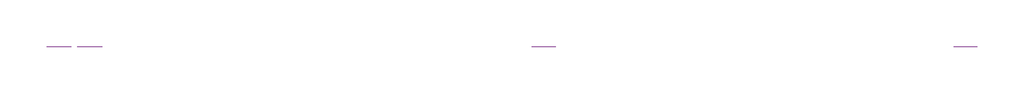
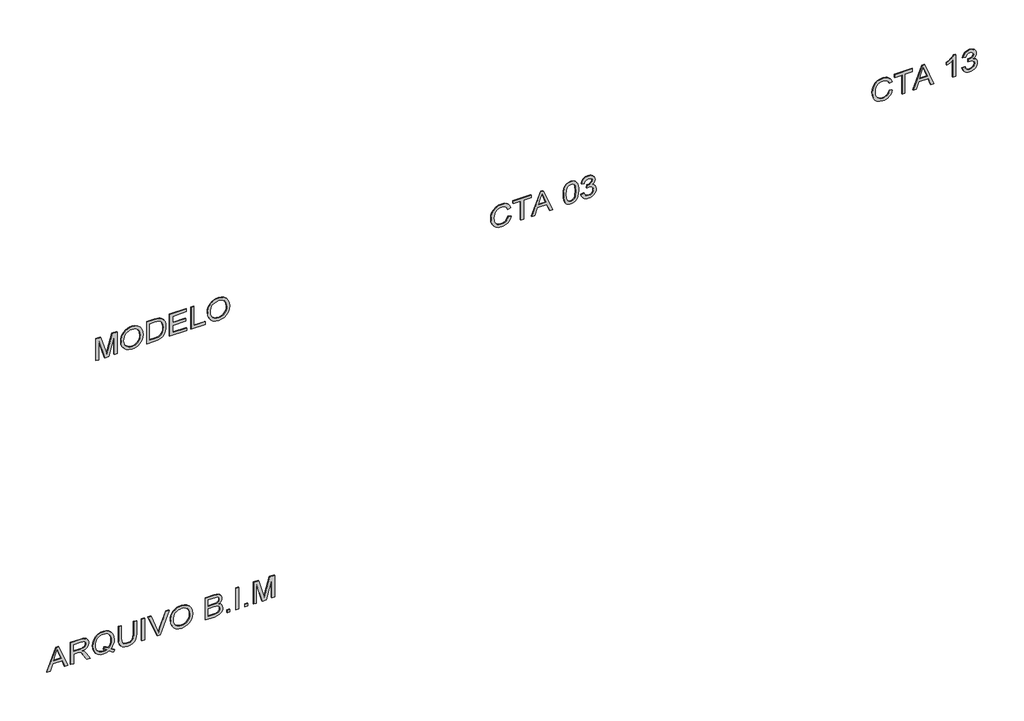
# One storey, incomplete: 4 proxies.
"""IFC4 building model written with IfcOpenShell, lengths in millimetres."""

from ifc_helpers import new_model, si_unit, frame, origin, place, context, project, spatial, polyline, outline, extrude, element, save

model = new_model("IFC4")

# Units and contexts
model_context = context("Model", 3, world=origin())
ifc_project = project(units=[si_unit("LENGTHUNIT", "METRE", prefix="MILLI")], contexts=[model_context])

# Site, building, storey
site = spatial("IfcSite", under=ifc_project)
building = spatial("IfcBuilding", under=site)
storey = spatial("IfcBuildingStorey", under=building, Name="04 - Marelli - Planta Baixa - Cabine Acessível", Elevation=-36000.0)

# Proxies
placement = place(None, origin())
element("IfcBuildingElementProxy", 1, Name="300mm Arial", ObjectType="300mm Arial", at=placement, inside=storey, context=model_context, shape_type="SweptSolid", body=[
    extrude(outline(polyline([(-34400.0, -7636.3146377), (-34400.0, -7596.5098058), (-34305.8222092, -7562.076051), (-34305.8222092, -7437.9526659), (-34400.0, -7403.4453347), (-34400.0, -7363.6405028), (-34098.6310696, -7483.9379153), (-34098.6310696, -7516.0172252), (-34400.0, -7636.3146377)]), holes=[polyline([(-34268.1510929, -7548.243688), (-34187.584936, -7518.739552), (-34136.3021859, -7499.9775703), (-34194.0596591, -7478.8611437), (-34268.1510929, -7451.7114525), (-34268.1510929, -7548.243688)])]), frame((0.0, 8778.3159498, 0.0), z_axis=(0.0, 1.0, 0.0), x_axis=(0.0, 0.0, 1.0)), (0.0, 0.0, 1.0), 10.0),
    extrude(outline(polyline([(-34400.0, -7323.3942126), (-34400.0, -7285.7230963), (-34268.1510929, -7285.7230963), (-34268.1510929, -7240.2528817), (-34269.4754681, -7218.4006911), (-34276.649167, -7200.484838), (-34296.183701, -7180.582422), (-34337.5336372, -7152.2555084), (-34400.0, -7113.0392877), (-34400.0, -7069.2613303), (-34318.3301971, -7119.5140108), (-34279.5554348, -7150.0482164), (-34263.4422034, -7171.4589486), (-34253.4542072, -7134.3488523), (-34245.4389783, -7119.9669655), (-34235.4095954, -7108.3671864), (-34210.7982899, -7093.0540983), (-34181.1102129, -7087.9497357), (-34157.2438684, -7091.0307474), (-34135.5296337, -7100.2737825), (-34118.0184507, -7114.6763626), (-34106.7612616, -7133.2360093), (-34100.6636176, -7158.629064), (-34098.6310696, -7193.5318683), (-34098.6310696, -7323.3942126), (-34400.0, -7323.3942126)]), holes=[polyline([(-34230.4799766, -7285.7230963), (-34136.3021859, -7285.7230963), (-34136.3021859, -7191.9131875), (-34139.5579415, -7162.1055488), (-34149.3252085, -7141.5501423), (-34164.1324588, -7129.6031746), (-34182.5081645, -7125.620852), (-34195.8162956, -7127.7085823), (-34208.0759631, -7133.9717732), (-34218.2111121, -7144.254075), (-34225.1456877, -7158.3991377), (-34229.1464044, -7177.1887106), (-34230.4799766, -7201.404543), (-34230.4799766, -7285.7230963)])]), frame((0.0, 8778.3159498, 0.0), z_axis=(0.0, 1.0, 0.0), x_axis=(0.0, 0.0, 1.0)), (0.0, 0.0, 1.0), 10.0),
    extrude(outline(polyline([(-34363.8739881, -6795.6307023), (-34340.3479345, -6777.1814202), (-34313.0326963, -6764.0664271), (-34281.9650618, -6756.2305406), (-34247.1818192, -6753.6185784), (-34205.3536364, -6757.9227978), (-34168.0136138, -6770.8354558), (-34136.8172207, -6791.9610794), (-34113.4199258, -6820.9041954), (-34098.7966164, -6855.7702114), (-34093.92218, -6894.6645354), (-34098.6862519, -6933.2553567), (-34112.9784674, -6967.9466288), (-34136.3849593, -6996.93573), (-34168.4918604, -7018.4200386), (-34206.944726, -7031.7189727), (-34249.3891112, -7036.1519507), (-34291.7967082, -7031.7097756), (-34329.6977507, -7018.3832504), (-34361.3539964, -6996.8161684), (-34385.0272028, -6967.6523232), (-34399.7884679, -6932.8322924), (-34404.7088895, -6894.2966534), (-34400.4414584, -6855.9449554), (-34387.639165, -6821.0881364), (-34408.47968, -6790.1308665), (-34422.8822601, -6759.063232), (-34395.2911105, -6748.9096889), (-34382.4704229, -6771.2953083), (-34363.8739881, -6795.6307023)]), holes=[polyline([(-34313.7684603, -6883.9223811), (-34342.6104088, -6893.6344658), (-34349.287467, -6873.2721974), (-34359.3122513, -6853.9767867), (-34365.1063928, -6873.6032912), (-34367.0377732, -6894.5173826), (-34365.1362832, -6916.2385151), (-34359.431813, -6935.9316982), (-34349.9243627, -6953.5969318), (-34336.6139322, -6969.2342158), (-34319.748842, -6982.0296115), (-34299.5774124, -6991.1691798), (-34276.0996433, -6996.6529208), (-34249.3155348, -6998.4808344), (-34221.8140564, -6996.6322274), (-34197.9500112, -6991.0864063), (-34177.7233993, -6981.8433712), (-34161.1342205, -6968.903122), (-34148.2100662, -6953.1577726), (-34138.9785274, -6935.4994369), (-34133.4396041, -6915.9281147), (-34131.5932963, -6894.4438062), (-34135.2445251, -6865.9605427), (-34146.1982115, -6840.4019411), (-34163.7645768, -6819.2027411), (-34187.2538422, -6803.7976826), (-34215.9394408, -6794.4166917), (-34249.0948056, -6791.2896947), (-34278.2678478, -6793.5015852), (-34303.5413409, -6800.1372567), (-34324.9152848, -6811.1967092), (-34342.3896796, -6826.6799427), (-34325.7430193, -6852.2477413), (-34313.7684603, -6883.9223811)])]), frame((0.0, 8778.3159498, 0.0), z_axis=(0.0, 1.0, 0.0), x_axis=(0.0, 0.0, 1.0)), (0.0, 0.0, 1.0), 10.0),
    extrude(outline(polyline([(-34098.6310696, -6499.3385434), (-34271.1677253, -6499.3385434), (-34318.3301971, -6504.1026152), (-34335.0688279, -6510.057705), (-34347.2457219, -6518.3948307), (-34355.9047444, -6529.5278596), (-34362.0897604, -6543.8706589), (-34367.0377732, -6582.1855687), (-34364.5361757, -6606.3554158), (-34357.031383, -6626.4785609), (-34344.9188683, -6641.9112106), (-34328.5941047, -6652.0095714), (-34305.0220659, -6657.5829836), (-34271.1677253, -6659.4407877), (-34098.6310696, -6659.4407877), (-34098.6310696, -6697.111904), (-34272.4921005, -6697.111904), (-34315.2675795, -6694.2516215), (-34347.9446977, -6685.6707739), (-34372.3076828, -6670.4036711), (-34390.1407625, -6647.4846228), (-34401.0668578, -6616.904432), (-34404.7088895, -6578.6539015), (-34400.5242318, -6539.5480454), (-34387.9702588, -6508.7563224), (-34368.7484245, -6486.2235502), (-34344.5601833, -6471.8945465), (-34313.2074403, -6464.2242069), (-34272.4921005, -6461.6674271), (-34098.6310696, -6461.6674271), (-34098.6310696, -6499.3385434)])), frame((0.0, 8778.3159498, 0.0), z_axis=(0.0, 1.0, 0.0), x_axis=(0.0, 0.0, 1.0)), (0.0, 0.0, 1.0), 10.0),
    extrude(outline(polyline([(-6353.3629677, 8778.3159498), (-6391.034084, 8778.3159498), (-6391.034084, 8788.3159498), (-6353.3629677, 8788.3159498), (-6353.3629677, 8778.3159498)])), frame((0.0, 0.0, -34400.0), z_axis=(0.0, 0.0, 1.0), x_axis=(1.0, 0.0, 0.0)), (0.0, 0.0, 1.0), 301.3689304),
    extrude(outline(polyline([(-34400.0, -6188.9932922), (-34400.0, -6150.0713771), (-34098.6310696, -6035.2186183), (-34098.6310696, -6075.5384849), (-34315.7550231, -6156.0310655), (-34364.6833285, -6172.0707205), (-34315.7550231, -6188.3311046), (-34098.6310696, -6268.602956), (-34098.6310696, -6308.9228227), (-34400.0, -6188.9932922)])), frame((0.0, 8778.3159498, 0.0), z_axis=(0.0, 1.0, 0.0), x_axis=(0.0, 0.0, 1.0)), (0.0, 0.0, 1.0), 10.0),
    extrude(outline(polyline([(-34253.2886603, -6014.3229209), (-34291.8334964, -6010.0187016), (-34328.2997991, -5997.1060436), (-34359.992833, -5975.8424642), (-34384.2178624, -5946.485481), (-34399.5861328, -5910.8377157), (-34404.7088895, -5870.70179), (-34400.0735764, -5832.892718), (-34386.167637, -5797.7507904), (-34363.2485887, -5767.7868019), (-34331.5739489, -5745.5115471), (-34293.1118863, -5731.6883811), (-34249.8305696, -5727.0806591), (-34207.1194699, -5731.4584548), (-34169.1908362, -5744.5918421), (-34137.5713787, -5766.0761506), (-34113.7878078, -5795.5067102), (-34098.8885869, -5830.9521404), (-34093.92218, -5870.4810608), (-34096.5663319, -5900.7715446), (-34104.4987874, -5928.1465636), (-34117.7195466, -5952.6061177), (-34136.2286095, -5974.1502071), (-34159.4097737, -5991.7257694), (-34186.6468369, -6004.2797425), (-34217.9397991, -6011.8121263), (-34253.2886603, -6014.3229209)]), holes=[polyline([(-34253.6565423, -5976.6518046), (-34223.1200375, -5974.6882345), (-34197.2878236, -5968.797524), (-34176.1599008, -5958.9796733), (-34159.736269, -5945.2346822), (-34147.4237184, -5928.7673644), (-34138.6290395, -5910.7825334), (-34133.3522321, -5891.2801891), (-34131.5932963, -5870.2603316), (-34135.2445251, -5841.0964864), (-34146.1982115, -5814.9676677), (-34163.7921679, -5793.3086153), (-34187.3642068, -5777.5540688), (-34216.1877611, -5767.9523488), (-34249.536264, -5764.7517754), (-34276.0743514, -5766.6210758), (-34299.4026684, -5772.228977), (-34319.521215, -5781.5754789), (-34336.4299912, -5794.6605816), (-34349.8208959, -5810.642755), (-34359.3858277, -5828.6804691), (-34365.1247869, -5848.7737238), (-34367.0377732, -5870.9225192), (-34365.143181, -5892.6988341), (-34359.4594041, -5912.557564), (-34349.9864428, -5930.4987091), (-34336.7242968, -5946.5222692), (-34320.1650085, -5959.703941), (-34300.80062, -5969.1194208), (-34278.6311313, -5974.7687087), (-34253.6565423, -5976.6518046)])]), frame((0.0, 8778.3159498, 0.0), z_axis=(0.0, 1.0, 0.0), x_axis=(0.0, 0.0, 1.0)), (0.0, 0.0, 1.0), 10.0),
    extrude(outline(polyline([(-34400.0, -5557.5606357), (-34400.0, -5443.4436408), (-34394.8128639, -5395.1407348), (-34388.3933231, -5377.10532), (-34379.5089729, -5362.3624491), (-34367.2401083, -5350.3235108), (-34350.6670244, -5340.399894), (-34331.1784758, -5333.7504269), (-34310.1632168, -5331.5339379), (-34284.944906, -5334.7804965), (-34263.2950506, -5344.5201723), (-34246.3356906, -5360.2931129), (-34235.1888662, -5381.6394656), (-34223.4442335, -5363.7695977), (-34208.5174215, -5351.0684718), (-34191.456894, -5343.4809057), (-34173.3111146, -5340.951717), (-34153.5926396, -5343.9591523), (-34134.7570815, -5352.9814582), (-34118.7450176, -5367.3104619), (-34107.4970256, -5386.2379906), (-34100.8475586, -5410.9320695), (-34098.6310696, -5442.560724), (-34098.6310696, -5557.5606357), (-34400.0, -5557.5606357)]), holes=[polyline([(-34221.0621975, -5519.8895194), (-34136.3021859, -5519.8895194), (-34136.3021859, -5456.3195106), (-34140.2385232, -5407.9062401), (-34145.8395266, -5395.4166463), (-34154.769862, -5386.2012024), (-34166.2109921, -5380.5174255), (-34179.3443793, -5378.6228333), (-34192.8732397, -5380.6553813), (-34203.8821084, -5386.7530254), (-34212.2422267, -5396.8605832), (-34217.824836, -5410.9228724), (-34221.0621975, -5451.0955863), (-34221.0621975, -5519.8895194)]), polyline([(-34362.3288837, -5519.8895194), (-34258.7333139, -5519.8895194), (-34258.7333139, -5446.3131204), (-34259.9933097, -5419.4853259), (-34263.7732972, -5399.776048), (-34270.6618875, -5385.8609115), (-34281.247692, -5376.4155413), (-34294.7857494, -5371.007676), (-34310.5310988, -5369.2050542), (-34324.0875503, -5370.7409615), (-34335.9149564, -5375.3486835), (-34352.6535872, -5391.0204565), (-34360.8573557, -5414.6752688), (-34362.3288837, -5442.6343004), (-34362.3288837, -5519.8895194)])]), frame((0.0, 8778.3159498, 0.0), z_axis=(0.0, 1.0, 0.0), x_axis=(0.0, 0.0, 1.0)), (0.0, 0.0, 1.0), 10.0),
    extrude(outline(polyline([(-5237.3561471, 8778.3159498), (-5275.0272634, 8778.3159498), (-5275.0272634, 8788.3159498), (-5237.3561471, 8788.3159498), (-5237.3561471, 8778.3159498)])), frame((0.0, 0.0, -34400.0), z_axis=(0.0, 0.0, 1.0), x_axis=(1.0, 0.0, 0.0)), (0.0, 0.0, 1.0), 37.6711163),
    extrude(outline(polyline([(-5119.6339087, 8778.3159498), (-5157.305025, 8778.3159498), (-5157.305025, 8788.3159498), (-5119.6339087, 8788.3159498), (-5119.6339087, 8778.3159498)])), frame((0.0, 0.0, -34400.0), z_axis=(0.0, 0.0, 1.0), x_axis=(1.0, 0.0, 0.0)), (0.0, 0.0, 1.0), 301.3689304),
    extrude(outline(polyline([(-5001.9116702, 8778.3159498), (-5039.5827865, 8778.3159498), (-5039.5827865, 8788.3159498), (-5001.9116702, 8788.3159498), (-5001.9116702, 8778.3159498)])), frame((0.0, 0.0, -34400.0), z_axis=(0.0, 0.0, 1.0), x_axis=(1.0, 0.0, 0.0)), (0.0, 0.0, 1.0), 37.6711163),
    extrude(outline(polyline([(-34400.0, -4926.5694376), (-34400.0, -4888.8983213), (-34136.3021859, -4888.8983213), (-34400.0, -4813.1882067), (-34400.0, -4762.1261857), (-34136.3021859, -4686.4160711), (-34400.0, -4686.4160711), (-34400.0, -4648.7449548), (-34098.6310696, -4648.7449548), (-34098.6310696, -4713.5657624), (-34307.3673136, -4774.1927152), (-34355.4127022, -4787.6571962), (-34311.0461336, -4800.0916076), (-34098.6310696, -4861.74863), (-34098.6310696, -4926.5694376), (-34400.0, -4926.5694376)])), frame((0.0, 8778.3159498, 0.0), z_axis=(0.0, 1.0, 0.0), x_axis=(0.0, 0.0, 1.0)), (0.0, 0.0, 1.0), 10.0),
])
element("IfcBuildingElementProxy", 2, Name="300mm Arial", ObjectType="300mm Arial", at=placement, inside=storey, context=model_context, shape_type="SweptSolid", body=[
    extrude(outline(polyline([(-30300.0, -6993.7719449), (-30300.0, -6956.1008286), (-30036.3021859, -6956.1008286), (-30300.0, -6880.390714), (-30300.0, -6829.328693), (-30036.3021859, -6753.6185784), (-30300.0, -6753.6185784), (-30300.0, -6715.9474621), (-29998.6310696, -6715.9474621), (-29998.6310696, -6780.7682697), (-30207.3673136, -6841.3952225), (-30255.4127022, -6854.8597035), (-30211.0461336, -6867.2941149), (-29998.6310696, -6928.9511373), (-29998.6310696, -6993.7719449), (-30300.0, -6993.7719449)])), frame((0.0, 8778.3159498, 0.0), z_axis=(0.0, 1.0, 0.0), x_axis=(0.0, 0.0, 1.0)), (0.0, 0.0, 1.0), 10.0),
    extrude(outline(polyline([(-30153.2886603, -6664.1496772), (-30191.8334964, -6659.8454579), (-30228.2997991, -6646.9327998), (-30259.992833, -6625.6692205), (-30284.2178624, -6596.3122373), (-30299.5861328, -6560.664472), (-30304.7088895, -6520.5285463), (-30300.0735764, -6482.7194742), (-30286.167637, -6447.5775466), (-30263.2485887, -6417.6135581), (-30231.5739489, -6395.3383033), (-30193.1118863, -6381.5151374), (-30149.8305696, -6376.9074154), (-30107.1194699, -6381.2852111), (-30069.1908362, -6394.4185983), (-30037.5713787, -6415.9029069), (-30013.7878078, -6445.3334665), (-29998.8885869, -6480.7788967), (-29993.92218, -6520.3078171), (-29996.5663319, -6550.5983009), (-30004.4987874, -6577.9733198), (-30017.7195466, -6602.432874), (-30036.2286095, -6623.9769633), (-30059.4097737, -6641.5525257), (-30086.6468369, -6654.1064987), (-30117.9397991, -6661.6388826), (-30153.2886603, -6664.1496772)]), holes=[polyline([(-30153.6565423, -6626.4785609), (-30123.1200375, -6624.5149908), (-30097.2878236, -6618.6242803), (-30076.1599008, -6608.8064296), (-30059.736269, -6595.0614385), (-30047.4237184, -6578.5941207), (-30038.6290395, -6560.6092897), (-30033.3522321, -6541.1069454), (-30031.5932963, -6520.0870879), (-30035.2445251, -6490.9232427), (-30046.1982115, -6464.794424), (-30063.7921679, -6443.1353716), (-30087.3642068, -6427.3808251), (-30116.1877611, -6417.779105), (-30149.536264, -6414.5785317), (-30176.0743514, -6416.4478321), (-30199.4026684, -6422.0557332), (-30219.521215, -6431.4022352), (-30236.4299912, -6444.4873379), (-30249.8208959, -6460.4695113), (-30259.3858277, -6478.5072254), (-30265.1247869, -6498.6004801), (-30267.0377732, -6520.7492755), (-30265.143181, -6542.5255903), (-30259.4594041, -6562.3843203), (-30249.9864428, -6580.3254653), (-30236.7242968, -6596.3490255), (-30220.1650085, -6609.5306972), (-30200.80062, -6618.9461771), (-30178.6311313, -6624.5954649), (-30153.6565423, -6626.4785609)])]), frame((0.0, 8778.3159498, 0.0), z_axis=(0.0, 1.0, 0.0), x_axis=(0.0, 0.0, 1.0)), (0.0, 0.0, 1.0), 10.0),
    extrude(outline(polyline([(-30300.0, -6325.1096305), (-30300.0, -6216.1429835), (-30294.8496521, -6167.6929247), (-30288.4944906, -6148.1491937), (-30279.7297021, -6131.6772774), (-30267.911493, -6117.3298796), (-30252.3960698, -6104.1597042), (-30232.7419742, -6092.7185741), (-30208.5077478, -6083.5583124), (-30180.0428784, -6077.5434418), (-30147.696854, -6075.5384849), (-30109.6210675, -6078.499935), (-30076.0334413, -6087.3842852), (-30047.4857985, -6102.2283237), (-30024.529962, -6123.0688387), (-30011.3413925, -6143.3391366), (-30002.9720771, -6167.3618309), (-29998.6310696, -6221.1461786), (-29998.6310696, -6325.1096305), (-30300.0, -6325.1096305)]), holes=[polyline([(-30262.3288837, -6287.4385141), (-30036.3021859, -6287.4385141), (-30036.3021859, -6221.8083662), (-30037.810502, -6190.06015), (-30042.3354506, -6168.3919005), (-30054.9170148, -6147.10073), (-30075.7391357, -6129.2860444), (-30106.0526121, -6117.228712), (-30147.1082428, -6113.2096012), (-30178.0931038, -6115.2605434), (-30204.0931639, -6121.4133697), (-30225.2003933, -6131.245016), (-30241.5067628, -6144.332418), (-30250.3175366, -6156.5093121), (-30256.8842302, -6172.2914497), (-30260.9677203, -6193.2055411), (-30262.3288837, -6220.7782966), (-30262.3288837, -6287.4385141)])]), frame((0.0, 8778.3159498, 0.0), z_axis=(0.0, 1.0, 0.0), x_axis=(0.0, 0.0, 1.0)), (0.0, 0.0, 1.0), 10.0),
    extrude(outline(polyline([(-30300.0, -6023.7407), (-30300.0, -5802.4228917), (-30262.3288837, -5802.4228917), (-30262.3288837, -5986.0695837), (-30163.4422034, -5986.0695837), (-30163.4422034, -5816.5495603), (-30125.7710871, -5816.5495603), (-30125.7710871, -5986.0695837), (-30036.3021859, -5986.0695837), (-30036.3021859, -5807.1317812), (-29998.6310696, -5807.1317812), (-29998.6310696, -6023.7407), (-30300.0, -6023.7407)])), frame((0.0, 8778.3159498, 0.0), z_axis=(0.0, 1.0, 0.0), x_axis=(0.0, 0.0, 1.0)), (0.0, 0.0, 1.0), 10.0),
    extrude(outline(polyline([(-30300.0, -5745.9162172), (-30300.0, -5557.5606357), (-30262.3288837, -5557.5606357), (-30262.3288837, -5708.2451009), (-29998.6310696, -5708.2451009), (-29998.6310696, -5745.9162172), (-30300.0, -5745.9162172)])), frame((0.0, 8778.3159498, 0.0), z_axis=(0.0, 1.0, 0.0), x_axis=(0.0, 0.0, 1.0)), (0.0, 0.0, 1.0), 10.0),
    extrude(outline(polyline([(-30153.2886603, -5529.3072985), (-30191.8334964, -5525.0030791), (-30228.2997991, -5512.0904211), (-30259.992833, -5490.8268418), (-30284.2178624, -5461.4698586), (-30299.5861328, -5425.8220932), (-30304.7088895, -5385.6861676), (-30300.0735764, -5347.8770955), (-30286.167637, -5312.7351679), (-30263.2485887, -5282.7711794), (-30231.5739489, -5260.4959246), (-30193.1118863, -5246.6727586), (-30149.8305696, -5242.0650367), (-30107.1194699, -5246.4428324), (-30069.1908362, -5259.5762196), (-30037.5713787, -5281.0605281), (-30013.7878078, -5310.4910878), (-29998.8885869, -5345.936518), (-29993.92218, -5385.4654384), (-29996.5663319, -5415.7559222), (-30004.4987874, -5443.1309411), (-30017.7195466, -5467.5904953), (-30036.2286095, -5489.1345846), (-30059.4097737, -5506.7101469), (-30086.6468369, -5519.26412), (-30117.9397991, -5526.7965039), (-30153.2886603, -5529.3072985)]), holes=[polyline([(-30153.6565423, -5491.6361822), (-30123.1200375, -5489.672612), (-30097.2878236, -5483.7819016), (-30076.1599008, -5473.9640508), (-30059.736269, -5460.2190598), (-30047.4237184, -5443.751742), (-30038.6290395, -5425.7669109), (-30033.3522321, -5406.2645667), (-30031.5932963, -5385.2447092), (-30035.2445251, -5356.080864), (-30046.1982115, -5329.9520453), (-30063.7921679, -5308.2929928), (-30087.3642068, -5292.5384464), (-30116.1877611, -5282.9367263), (-30149.536264, -5279.736153), (-30176.0743514, -5281.6054533), (-30199.4026684, -5287.2133545), (-30219.521215, -5296.5598565), (-30236.4299912, -5309.6449592), (-30249.8208959, -5325.6271326), (-30259.3858277, -5343.6648467), (-30265.1247869, -5363.7581014), (-30267.0377732, -5385.9068968), (-30265.143181, -5407.6832116), (-30259.4594041, -5427.5419416), (-30249.9864428, -5445.4830866), (-30236.7242968, -5461.5066468), (-30220.1650085, -5474.6883185), (-30200.80062, -5484.1037983), (-30178.6311313, -5489.7530862), (-30153.6565423, -5491.6361822)])]), frame((0.0, 8778.3159498, 0.0), z_axis=(0.0, 1.0, 0.0), x_axis=(0.0, 0.0, 1.0)), (0.0, 0.0, 1.0), 10.0),
])
element("IfcBuildingElementProxy", 3, Name="300mm Arial", ObjectType="300mm Arial", at=placement, inside=storey, context=model_context, shape_type="SweptSolid", body=[
    extrude(outline(polyline([(-30192.872763, -1586.4529998), (-30225.136014, -1598.6390909), (-30248.3493679, -1618.4219452), (-30262.3656719, -1644.6243403), (-30267.0377732, -1676.0690539), (-30263.6072736, -1703.0440011), (-30253.3157748, -1728.0507798), (-30236.0897004, -1748.9096889), (-30211.855474, -1763.4410277), (-30181.7627268, -1771.9666929), (-30146.96109, -1774.8085814), (-30118.5422059, -1772.4081513), (-30090.9694503, -1765.2068613), (-30066.5788741, -1752.0826711), (-30047.7065277, -1731.9135407), (-30035.6216042, -1705.3340666), (-30031.5932963, -1672.9788451), (-30035.226131, -1644.9094489), (-30046.1246351, -1622.063977), (-30064.9693903, -1604.2217002), (-30092.4409783, -1591.1618894), (-30083.4646576, -1553.4907731), (-30045.6463885, -1570.1282363), (-30030.3241034, -1581.9303505), (-30017.3930513, -1596.0547199), (-30007.1245451, -1612.2346299), (-29999.7898978, -1630.2033661), (-29993.92218, -1671.5073171), (-29998.4563256, -1709.3623744), (-30012.0587624, -1743.9064938), (-30034.3983965, -1773.0335507), (-30065.1441343, -1794.6374209), (-30103.0911621, -1808.0191285), (-30147.0346664, -1812.4796977), (-30188.6973024, -1808.5341633), (-30227.6008233, -1796.6975601), (-30260.6918088, -1777.3101789), (-30284.9168382, -1750.7123107), (-30299.7608767, -1716.0118415), (-30304.7088895, -1672.3166575), (-30303.0741139, -1649.8942499), (-30298.1697871, -1629.2744641), (-30289.995909, -1610.4573), (-30278.5524797, -1593.4427577), (-30263.995849, -1578.5665296), (-30246.4823668, -1566.1643078), (-30226.012033, -1556.2360924), (-30202.5848477, -1548.7818835), (-30192.872763, -1586.4529998)])), frame((0.0, 8778.3159498, 0.0), z_axis=(0.0, 1.0, 0.0), x_axis=(0.0, 0.0, 1.0)), (0.0, 0.0, 1.0), 10.0),
    extrude(outline(polyline([(-30300.0, -1421.641866), (-30300.0, -1383.9707497), (-30036.3021859, -1383.9707497), (-30036.3021859, -1285.0840694), (-29998.6310696, -1285.0840694), (-29998.6310696, -1520.5285463), (-30036.3021859, -1520.5285463), (-30036.3021859, -1421.641866), (-30300.0, -1421.641866)])), frame((0.0, 8778.3159498, 0.0), z_axis=(0.0, 1.0, 0.0), x_axis=(0.0, 0.0, 1.0)), (0.0, 0.0, 1.0), 10.0),
    extrude(outline(polyline([(-30300.0, -1277.8000059), (-30300.0, -1237.995174), (-30205.8222092, -1203.5614192), (-30205.8222092, -1079.4380341), (-30300.0, -1044.9307029), (-30300.0, -1005.125871), (-29998.6310696, -1125.4232835), (-29998.6310696, -1157.5025935), (-30300.0, -1277.8000059)]), holes=[polyline([(-30168.1510929, -1189.7290562), (-30087.584936, -1160.2249202), (-30036.3021859, -1141.4629385), (-30094.0596591, -1120.3465119), (-30168.1510929, -1093.1968207), (-30168.1510929, -1189.7290562)])]), frame((0.0, 8778.3159498, 0.0), z_axis=(0.0, 1.0, 0.0), x_axis=(0.0, 0.0, 1.0)), (0.0, 0.0, 1.0), 10.0),
    extrude(outline(polyline([(-30151.7435559, -861.2840109), (-30191.1851044, -859.4078128), (-30225.0440435, -853.7792182), (-30253.3203733, -844.3982274), (-30276.0140939, -831.2648401), (-30288.568067, -817.5796299), (-30297.5351906, -801.5399749), (-30302.9154648, -783.1458752), (-30304.7088895, -762.3973306), (-30300.5794141, -731.9458985), (-30288.190988, -707.2518196), (-30267.4056552, -688.149547), (-30238.0854602, -674.4735338), (-30199.7061711, -666.2513712), (-30151.7435559, -663.5106503), (-30111.7823742, -665.2213016), (-30080.9262719, -670.3532554), (-30056.6276661, -678.1891419), (-30036.3389741, -688.0115912), (-30020.1981515, -701.0162197), (-30008.3431542, -718.398644), (-30001.0590907, -739.1839767), (-29998.6310696, -762.3973306), (-30002.7329538, -792.6832159), (-30015.0386065, -817.3221125), (-30035.7411658, -836.4519763), (-30065.0337697, -850.2107629), (-30103.5050293, -858.5156989), (-30151.7435559, -861.2840109)]), holes=[polyline([(-30151.6699795, -823.6128946), (-30093.1767423, -819.0511579), (-30072.097104, -813.348987), (-30056.4621192, -805.3659477), (-30041.3421692, -786.4200249), (-30036.3021859, -762.838789), (-30042.0227509, -737.933178), (-30059.184446, -718.2514912), (-30073.5456393, -710.7834867), (-30093.7469594, -705.4491978), (-30151.6699795, -701.1817666), (-30210.8346014, -705.5963506), (-30231.0980016, -711.1145805), (-30245.1487945, -718.8401024), (-30261.5655286, -738.5585773), (-30267.0377732, -762.3973306), (-30261.5839227, -786.2360839), (-30245.2223709, -805.9545589), (-30231.1945706, -813.6800808), (-30210.9265719, -819.1983107), (-30151.6699795, -823.6128946)])]), frame((0.0, 8778.3159498, 0.0), z_axis=(0.0, 1.0, 0.0), x_axis=(0.0, 0.0, 1.0)), (0.0, 0.0, 1.0), 10.0),
    extrude(outline(polyline([(-30219.9488778, -630.5484236), (-30237.8417384, -627.2972664), (-30253.9963565, -621.222615), (-30268.4127322, -612.3244692), (-30281.0908654, -600.6028292), (-30291.423751, -586.6233133), (-30298.8043835, -570.9515403), (-30303.232763, -553.5875102), (-30304.7088895, -534.5312228), (-30302.9798442, -513.446986), (-30297.792708, -494.2665384), (-30289.1474811, -476.9898802), (-30277.0441635, -461.6170114), (-30262.4576424, -448.9986589), (-30246.3628051, -439.9855501), (-30228.7596516, -434.5776847), (-30209.648182, -432.775063), (-30182.6824317, -436.3803065), (-30160.6463002, -447.1960372), (-30144.4227042, -464.6704319), (-30134.8945606, -488.2516678), (-30124.0236476, -470.2990265), (-30109.9521613, -457.3495802), (-30093.4342597, -449.5136937), (-30075.2241009, -446.9017316), (-30055.68037, -449.6516495), (-30037.2218908, -457.9014032), (-30021.20063, -471.3474901), (-30008.9685536, -489.6864076), (-30001.2154406, -511.4374306), (-29998.6310696, -535.119834), (-30003.873388, -568.0084844), (-30019.6003433, -595.0110228), (-30044.8554422, -614.7478919), (-30078.6821917, -625.839534), (-30083.3910812, -588.1684177), (-30062.7896895, -581.4913595), (-30048.0744097, -569.7007416), (-30039.2452418, -553.550722), (-30036.3021859, -533.7954588), (-30039.2176507, -514.0769839), (-30047.9640451, -498.3316345), (-30061.1618117, -488.0125445), (-30077.4313929, -484.5728479), (-30096.9659269, -489.3185256), (-30110.6879253, -503.5555588), (-30118.7997233, -523.7338863), (-30121.5036559, -546.3034467), (-30121.0621975, -552.3367114), (-30158.7333139, -556.5305661), (-30154.6130355, -530.1166389), (-30158.4665994, -506.4250384), (-30170.0272911, -487.2951746), (-30187.4740947, -474.6584281), (-30208.9859944, -470.4461793), (-30231.6475253, -474.6952163), (-30250.3359307, -487.4423274), (-30262.8623126, -507.3815316), (-30267.0377732, -533.2068476), (-30264.0027468, -555.215388), (-30254.8976674, -572.0919745), (-30238.9131947, -584.4436125), (-30215.2399883, -592.8773073), (-30219.9488778, -630.5484236)])), frame((0.0, 8778.3159498, 0.0), z_axis=(0.0, 1.0, 0.0), x_axis=(0.0, 0.0, 1.0)), (0.0, 0.0, 1.0), 10.0),
])
element("IfcBuildingElementProxy", 4, Name="300mm Arial", ObjectType="300mm Arial", at=placement, inside=storey, context=model_context, shape_type="SweptSolid", body=[
    extrude(outline(polyline([(-30192.872763, 3413.5470002), (-30225.136014, 3401.3609091), (-30248.3493679, 3381.5780548), (-30262.3656719, 3355.3756597), (-30267.0377732, 3323.9309461), (-30263.6072736, 3296.9559989), (-30253.3157748, 3271.9492202), (-30236.0897004, 3251.0903111), (-30211.855474, 3236.5589723), (-30181.7627268, 3228.0333071), (-30146.96109, 3225.1914186), (-30118.5422059, 3227.5918487), (-30090.9694503, 3234.7931387), (-30066.5788741, 3247.9173289), (-30047.7065277, 3268.0864593), (-30035.6216042, 3294.6659334), (-30031.5932963, 3327.0211549), (-30035.226131, 3355.0905511), (-30046.1246351, 3377.936023), (-30064.9693903, 3395.7782998), (-30092.4409783, 3408.8381106), (-30083.4646576, 3446.5092269), (-30045.6463885, 3429.8717637), (-30030.3241034, 3418.0696495), (-30017.3930513, 3403.9452801), (-30007.1245451, 3387.7653701), (-29999.7898978, 3369.7966339), (-29993.92218, 3328.4926829), (-29998.4563256, 3290.6376256), (-30012.0587624, 3256.0935062), (-30034.3983965, 3226.9664493), (-30065.1441343, 3205.3625791), (-30103.0911621, 3191.9808715), (-30147.0346664, 3187.5203023), (-30188.6973024, 3191.4658367), (-30227.6008233, 3203.3024399), (-30260.6918088, 3222.6898211), (-30284.9168382, 3249.2876893), (-30299.7608767, 3283.9881585), (-30304.7088895, 3327.6833425), (-30303.0741139, 3350.1057501), (-30298.1697871, 3370.7255359), (-30289.995909, 3389.5427), (-30278.5524797, 3406.5572423), (-30263.995849, 3421.4334704), (-30246.4823668, 3433.8356922), (-30226.012033, 3443.7639076), (-30202.5848477, 3451.2181165), (-30192.872763, 3413.5470002)])), frame((0.0, 8778.3159498, 0.0), z_axis=(0.0, 1.0, 0.0), x_axis=(0.0, 0.0, 1.0)), (0.0, 0.0, 1.0), 10.0),
    extrude(outline(polyline([(-30300.0, 3578.358134), (-30300.0, 3616.0292503), (-30036.3021859, 3616.0292503), (-30036.3021859, 3714.9159306), (-29998.6310696, 3714.9159306), (-29998.6310696, 3479.4714537), (-30036.3021859, 3479.4714537), (-30036.3021859, 3578.358134), (-30300.0, 3578.358134)])), frame((0.0, 8778.3159498, 0.0), z_axis=(0.0, 1.0, 0.0), x_axis=(0.0, 0.0, 1.0)), (0.0, 0.0, 1.0), 10.0),
    extrude(outline(polyline([(-30300.0, 3722.1999941), (-30300.0, 3762.004826), (-30205.8222092, 3796.4385808), (-30205.8222092, 3920.5619659), (-30300.0, 3955.0692971), (-30300.0, 3994.874129), (-29998.6310696, 3874.5767165), (-29998.6310696, 3842.4974065), (-30300.0, 3722.1999941)]), holes=[polyline([(-30168.1510929, 3810.2709438), (-30087.584936, 3839.7750798), (-30036.3021859, 3858.5370615), (-30094.0596591, 3879.6534881), (-30168.1510929, 3906.8031793), (-30168.1510929, 3810.2709438)])]), frame((0.0, 8778.3159498, 0.0), z_axis=(0.0, 1.0, 0.0), x_axis=(0.0, 0.0, 1.0)), (0.0, 0.0, 1.0), 10.0),
    extrude(outline(polyline([(-30300.0, 4279.9826752), (-29998.6310696, 4279.9826752), (-29998.6310696, 4255.7024635), (-30018.3679386, 4242.3943324), (-30038.730207, 4222.1884138), (-30057.8784649, 4196.5562358), (-30073.9733022, 4166.9693263), (-30109.5842793, 4166.9693263), (-30090.5647801, 4206.6270054), (-30065.1441343, 4242.3115589), (-30300.0, 4242.3115589), (-30300.0, 4279.9826752)])), frame((0.0, 8778.3159498, 0.0), z_axis=(0.0, 1.0, 0.0), x_axis=(0.0, 0.0, 1.0)), (0.0, 0.0, 1.0), 10.0),
    extrude(outline(polyline([(-30219.9488778, 4369.4515764), (-30237.8417384, 4372.7027336), (-30253.9963565, 4378.777385), (-30268.4127322, 4387.6755308), (-30281.0908654, 4399.3971708), (-30291.423751, 4413.3766867), (-30298.8043835, 4429.0484597), (-30303.232763, 4446.4124898), (-30304.7088895, 4465.4687772), (-30302.9798442, 4486.553014), (-30297.792708, 4505.7334616), (-30289.1474811, 4523.0101198), (-30277.0441635, 4538.3829886), (-30262.4576424, 4551.0013411), (-30246.3628051, 4560.0144499), (-30228.7596516, 4565.4223153), (-30209.648182, 4567.224937), (-30182.6824317, 4563.6196935), (-30160.6463002, 4552.8039628), (-30144.4227042, 4535.3295681), (-30134.8945606, 4511.7483322), (-30124.0236476, 4529.7009735), (-30109.9521613, 4542.6504198), (-30093.4342597, 4550.4863063), (-30075.2241009, 4553.0982684), (-30055.68037, 4550.3483505), (-30037.2218908, 4542.0985968), (-30021.20063, 4528.6525099), (-30008.9685536, 4510.3135924), (-30001.2154406, 4488.5625694), (-29998.6310696, 4464.880166), (-30003.873388, 4431.9915156), (-30019.6003433, 4404.9889772), (-30044.8554422, 4385.2521081), (-30078.6821917, 4374.160466), (-30083.3910812, 4411.8315823), (-30062.7896895, 4418.5086405), (-30048.0744097, 4430.2992584), (-30039.2452418, 4446.449278), (-30036.3021859, 4466.2045412), (-30039.2176507, 4485.9230161), (-30047.9640451, 4501.6683655), (-30061.1618117, 4511.9874555), (-30077.4313929, 4515.4271521), (-30096.9659269, 4510.6814744), (-30110.6879253, 4496.4444412), (-30118.7997233, 4476.2661137), (-30121.5036559, 4453.6965533), (-30121.0621975, 4447.6632886), (-30158.7333139, 4443.4694339), (-30154.6130355, 4469.8833611), (-30158.4665994, 4493.5749616), (-30170.0272911, 4512.7048254), (-30187.4740947, 4525.3415719), (-30208.9859944, 4529.5538207), (-30231.6475253, 4525.3047837), (-30250.3359307, 4512.5576726), (-30262.8623126, 4492.6184684), (-30267.0377732, 4466.7931524), (-30264.0027468, 4444.784612), (-30254.8976674, 4427.9080255), (-30238.9131947, 4415.5563875), (-30215.2399883, 4407.1226927), (-30219.9488778, 4369.4515764)])), frame((0.0, 8778.3159498, 0.0), z_axis=(0.0, 1.0, 0.0), x_axis=(0.0, 0.0, 1.0)), (0.0, 0.0, 1.0), 10.0),
])

save(model, "model.ifc")
